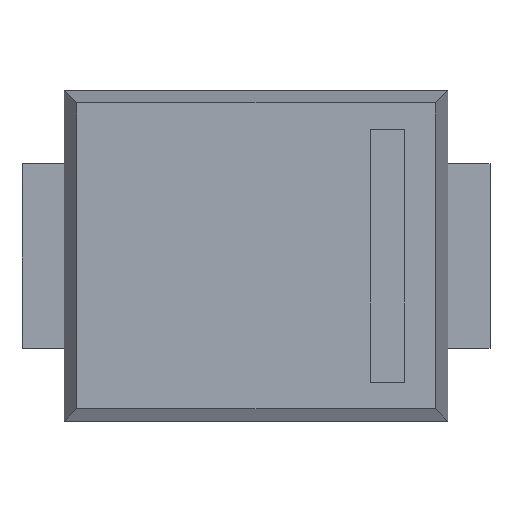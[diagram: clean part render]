
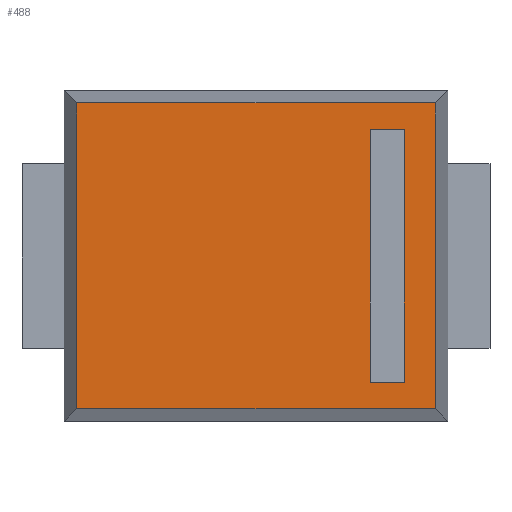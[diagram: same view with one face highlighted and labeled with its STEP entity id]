
A CAD part, top view. The second image highlights one B-rep face of the part: STEP entity #488.
In plain terms, the highlighted planar face has unit normal (0, 0, 1).
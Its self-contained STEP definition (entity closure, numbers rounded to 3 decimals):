
#488=ADVANCED_FACE('',(#494),#489,.T.);
#489=PLANE('',#490);
#490=AXIS2_PLACEMENT_3D('',#491,#492,#493);
#491=CARTESIAN_POINT('',(-2.152,-1.834,1.092));
#492=DIRECTION('',(0.0,0.0,1.0));
#493=DIRECTION('',(0.,1.,0.));
#494=FACE_OUTER_BOUND('',#495,.T.);
#495=EDGE_LOOP('',(#496,#506,#516,#526));
#499=CARTESIAN_POINT('',(2.152,-1.834,1.092));
#498=VERTEX_POINT('',#499);
#501=CARTESIAN_POINT('',(-2.152,-1.834,1.092));
#500=VERTEX_POINT('',#501);
#497=EDGE_CURVE('',#498,#500,#502,.T.);
#502=LINE('',#499,#504);
#504=VECTOR('',#505,4.304);
#505=DIRECTION('',(-1.0,0.0,0.0));
#496=ORIENTED_EDGE('',*,*,#497,.F.);
#509=CARTESIAN_POINT('',(2.152,1.834,1.092));
#508=VERTEX_POINT('',#509);
#507=EDGE_CURVE('',#508,#498,#512,.T.);
#512=LINE('',#509,#514);
#514=VECTOR('',#515,3.669);
#515=DIRECTION('',(0.0,-1.0,0.0));
#506=ORIENTED_EDGE('',*,*,#507,.F.);
#519=CARTESIAN_POINT('',(-2.152,1.834,1.092));
#518=VERTEX_POINT('',#519);
#517=EDGE_CURVE('',#518,#508,#522,.T.);
#522=LINE('',#519,#524);
#524=VECTOR('',#525,4.304);
#525=DIRECTION('',(1.0,0.0,0.0));
#516=ORIENTED_EDGE('',*,*,#517,.F.);
#527=EDGE_CURVE('',#500,#518,#532,.T.);
#532=LINE('',#501,#534);
#534=VECTOR('',#535,3.669);
#535=DIRECTION('',(0.0,1.0,0.0));
#526=ORIENTED_EDGE('',*,*,#527,.F.);
